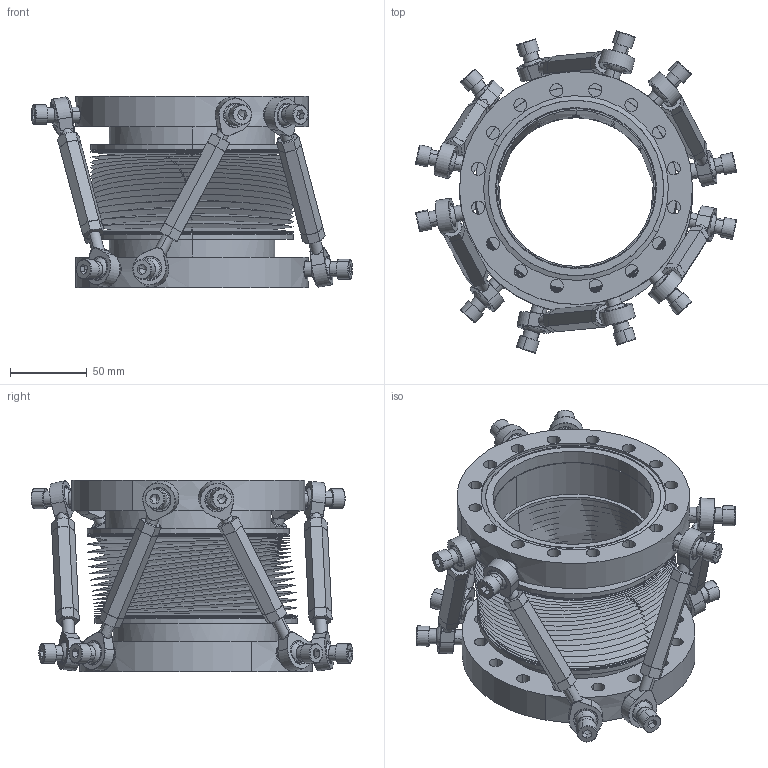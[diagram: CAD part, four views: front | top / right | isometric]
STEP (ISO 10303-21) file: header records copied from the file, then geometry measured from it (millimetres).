
FILE_DESCRIPTION(('Confidential','CAx-IF Rec.Pracs.--- Model Styling and Organization---1.2---2011-12-15'),'2;1');
FILE_NAME('W:\KONSTRUKTION\PRODUCTS\PA\PA100HEX\PA100HEX\PA100HEX_lateral_5mm.stp','2024-04-23T09:08:36+00:00',('none'),('Ferrovac AG'),'CATIA Version 5 Release 21 SP 6 (IN-10)','CATIA V5 STEP AP214','PROPERTY OF FERROVAC AG');
FILE_SCHEMA(('AUTOMOTIVE_DESIGN { 1 0 10303 214 1 1 1 1 }'));
Length unit declared in the file: millimetre
Products named in the file (1): PA100HEX_lateral_5mm
Bounding box: 209.45 x 210 x 124.9 mm (x, y, z)
Volume: 661479.8 mm3; surface area: 396796.7 mm2
Topology: 1 solids, 33 shells, 1654 faces, 3895 edges, 2425 vertices
Faces by surface type: cylinder 527, plane 516, cone 256, bspline 167, torus 96, sphere 92
Entity records: 58350 total; most frequent: CARTESIAN_POINT 25247, ORIENTED_EDGE 7710, DIRECTION 4614, EDGE_CURVE 3855, VERTEX_POINT 2425, AXIS2_PLACEMENT_3D 2414, EDGE_LOOP 1914, ADVANCED_FACE 1654
